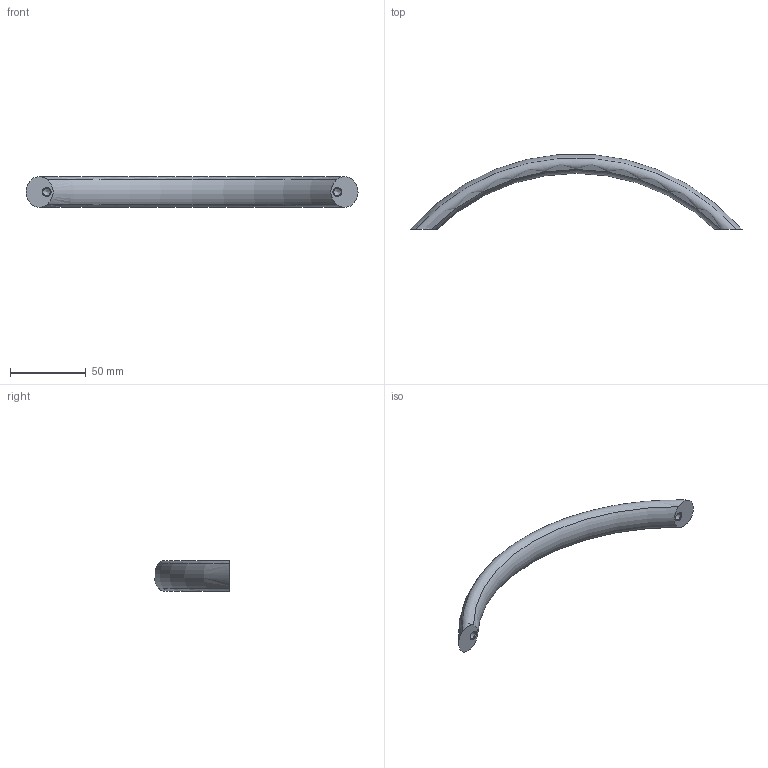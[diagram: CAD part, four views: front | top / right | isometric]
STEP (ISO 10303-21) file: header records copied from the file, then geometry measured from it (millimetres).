
FILE_DESCRIPTION( ( 'STEP AP203' ), '1' );
FILE_NAME( 'C:/Temp/Ganter_Step_05_03_2020/data/1_2/gn_565_4/Arch handle GN 565.4-20-192-A-BL.stp', '2020-03-05T10:12:31', ( 'License CC BY-ND 4.0' ), ( 'CADENAS' ), ' ', 'PARTsolutions', ' ' );
FILE_SCHEMA( ( 'CONFIG_CONTROL_DESIGN' ) );
Length unit declared in the file: millimetre
Products named in the file (1): _Arch handle GN 565.4-20-192-A-BL
Bounding box: 219.29 x 49.51 x 20 mm (x, y, z)
Volume: 45768.9 mm3; surface area: 12737.2 mm2
Topology: 1 solids, 1 shells, 12 faces, 26 edges, 16 vertices
Faces by surface type: cone 4, torus 4, cylinder 2, plane 2
Full cylindrical faces by diameter (mm): 4.917 x2
Entity records: 498 total; most frequent: CARTESIAN_POINT 229, DIRECTION 46, ORIENTED_EDGE 36, AXIS2_PLACEMENT_3D 23, EDGE_LOOP 18, EDGE_CURVE 18, VERTEX_POINT 16, FACE_OUTER_BOUND 14
